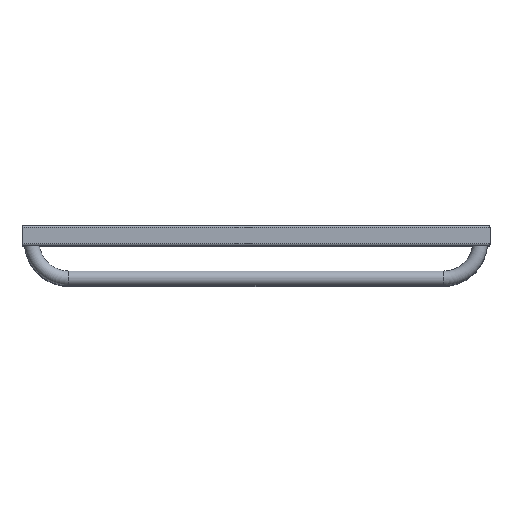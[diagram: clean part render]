
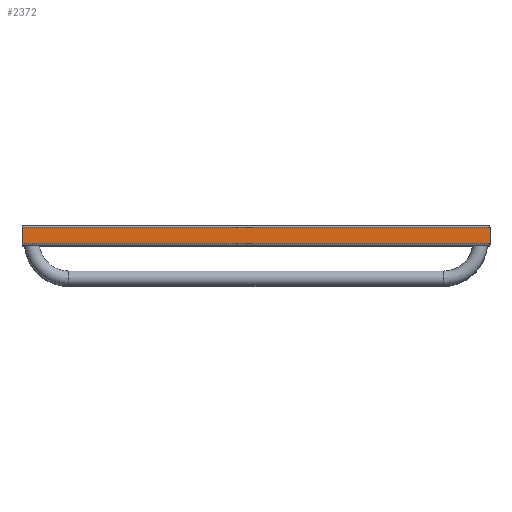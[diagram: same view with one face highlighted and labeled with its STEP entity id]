
A CAD part, top view. The second image highlights one B-rep face of the part: STEP entity #2372.
In plain terms, the highlighted planar face has unit normal (0, 0, 1).
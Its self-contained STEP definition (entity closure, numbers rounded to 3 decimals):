
#243=CARTESIAN_POINT('',(350.,12.,785.0));
#244=VERTEX_POINT('',#243);
#251=CARTESIAN_POINT('',(350.,-12.,785.0));
#252=VERTEX_POINT('',#251);
#253=CARTESIAN_POINT('',(350.,12.,785.0));
#254=DIRECTION('',(0.0,-1.0,0.0));
#255=VECTOR('',#254,24.);
#256=LINE('',#253,#255);
#257=EDGE_CURVE('',#244,#252,#256,.T.);
#2223=CARTESIAN_POINT('',(-350.,12.,785.0));
#2224=VERTEX_POINT('',#2223);
#2225=CARTESIAN_POINT('',(-350.0,12.,785.0));
#2226=DIRECTION('',(1.0,0.0,0.0));
#2227=VECTOR('',#2226,700.0);
#2228=LINE('',#2225,#2227);
#2229=EDGE_CURVE('',#2224,#244,#2228,.T.);
#2267=CARTESIAN_POINT('',(-350.,-12.,785.0));
#2268=VERTEX_POINT('',#2267);
#2275=CARTESIAN_POINT('',(-350.,-12.,785.0));
#2276=DIRECTION('',(0.0,1.0,0.0));
#2277=VECTOR('',#2276,24.);
#2278=LINE('',#2275,#2277);
#2279=EDGE_CURVE('',#2268,#2224,#2278,.T.);
#2331=CARTESIAN_POINT('',(350.,-12.,785.0));
#2332=DIRECTION('',(-1.0,0.0,0.0));
#2333=VECTOR('',#2332,700.0);
#2334=LINE('',#2331,#2333);
#2335=EDGE_CURVE('',#252,#2268,#2334,.T.);
#2361=CARTESIAN_POINT('',(335.0,0.,785.0));
#2362=DIRECTION('',(0.0,0.0,1.0));
#2363=DIRECTION('',(1.0,0.0,0.0));
#2364=AXIS2_PLACEMENT_3D('',#2361,#2362,#2363);
#2365=PLANE('',#2364);
#2366=ORIENTED_EDGE('',*,*,#2229,.F.);
#2367=ORIENTED_EDGE('',*,*,#2279,.F.);
#2368=ORIENTED_EDGE('',*,*,#2335,.F.);
#2369=ORIENTED_EDGE('',*,*,#257,.F.);
#2370=EDGE_LOOP('',(#2366,#2367,#2368,#2369));
#2371=FACE_OUTER_BOUND('',#2370,.T.);
#2372=ADVANCED_FACE('',(#2371),#2365,.T.);
